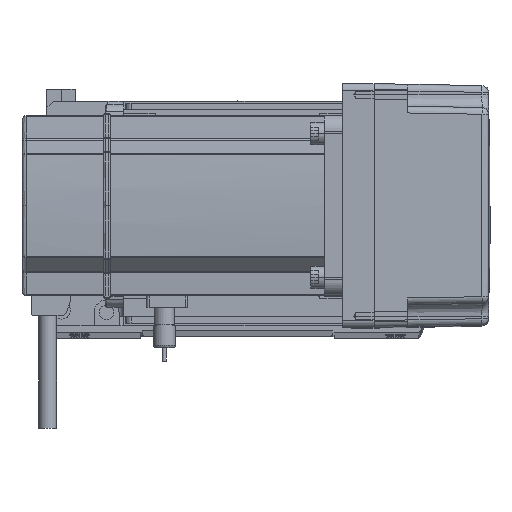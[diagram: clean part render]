
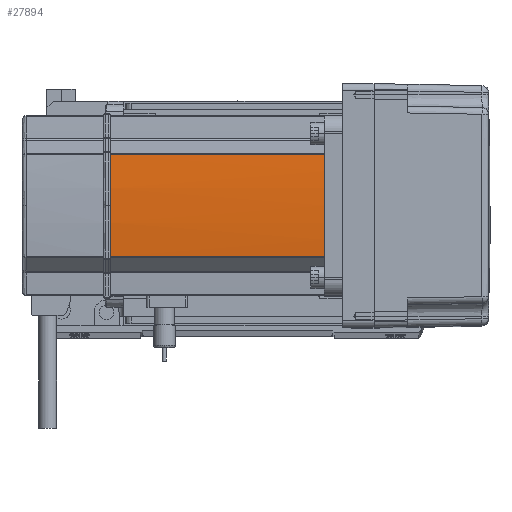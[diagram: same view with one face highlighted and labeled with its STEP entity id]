
A CAD part, top view. The second image highlights one B-rep face of the part: STEP entity #27894.
In plain terms, the highlighted cylindrical face has radius 270 mm (diameter 540 mm), a partial arc.
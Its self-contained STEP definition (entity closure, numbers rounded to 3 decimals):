
#1640 = DIRECTION ( 'NONE',  ( 1., 0., 0. ) ) ;
#1678 = DIRECTION ( 'NONE',  ( 1., 0., 0. ) ) ;
#2186 = CIRCLE ( 'NONE', #44142, 270. ) ;
#7544 = CYLINDRICAL_SURFACE ( 'NONE', #23290, 270. ) ;
#9021 = CARTESIAN_POINT ( 'NONE',  ( -39.042, -22.724, 39. ) ) ;
#10149 = EDGE_CURVE ( 'NONE', #40676, #30297, #2186, .T. ) ;
#10445 = ORIENTED_EDGE ( 'NONE', *, *, #30769, .T. ) ;
#11083 = DIRECTION ( 'NONE',  ( 0., 0., 1. ) ) ;
#12464 = ORIENTED_EDGE ( 'NONE', *, *, #49266, .T. ) ;
#12509 = LINE ( 'NONE', #24767, #57011 ) ;
#13153 = DIRECTION ( 'NONE',  ( 0., 0., -1. ) ) ;
#20511 = DIRECTION ( 'NONE',  ( 1., 0., 0. ) ) ;
#22298 = ORIENTED_EDGE ( 'NONE', *, *, #49532, .T. ) ;
#22642 = CARTESIAN_POINT ( 'NONE',  ( -40., 0., 134. ) ) ;
#23245 = CARTESIAN_POINT ( 'NONE',  ( -39.042, 22.724, 134. ) ) ;
#23290 = AXIS2_PLACEMENT_3D ( 'NONE', #47692, #11083, #20511 ) ;
#24417 = LINE ( 'NONE', #49272, #51037 ) ;
#24765 = FACE_OUTER_BOUND ( 'NONE', #34408, .T. ) ;
#24767 = CARTESIAN_POINT ( 'NONE',  ( -39.042, 22.724, 0. ) ) ;
#27894 = ADVANCED_FACE ( 'NONE', ( #24765 ), #7544, .T. ) ;
#29196 = CARTESIAN_POINT ( 'NONE',  ( 230., 0., 39. ) ) ;
#29222 = DIRECTION ( 'NONE',  ( 0., 0., -1. ) ) ;
#30297 = VERTEX_POINT ( 'NONE', #46888 ) ;
#30769 = EDGE_CURVE ( 'NONE', #40676, #45592, #24417, .T. ) ;
#31671 = DIRECTION ( 'NONE',  ( 1., 0., 0. ) ) ;
#32223 = CIRCLE ( 'NONE', #36498, 270. ) ;
#33493 = ORIENTED_EDGE ( 'NONE', *, *, #48144, .T. ) ;
#33632 = CARTESIAN_POINT ( 'NONE',  ( 230., 0., 134. ) ) ;
#33670 = CIRCLE ( 'NONE', #49954, 270. ) ;
#34408 = EDGE_LOOP ( 'NONE', ( #22298, #12464, #33493, #46705, #10445 ) ) ;
#34536 = VERTEX_POINT ( 'NONE', #23245 ) ;
#36498 = AXIS2_PLACEMENT_3D ( 'NONE', #33632, #29222, #1678 ) ;
#40676 = VERTEX_POINT ( 'NONE', #9021 ) ;
#42169 = VERTEX_POINT ( 'NONE', #22642 ) ;
#43324 = DIRECTION ( 'NONE',  ( 0., 0., -1. ) ) ;
#44142 = AXIS2_PLACEMENT_3D ( 'NONE', #29196, #47496, #1640 ) ;
#45592 = VERTEX_POINT ( 'NONE', #54852 ) ;
#46705 = ORIENTED_EDGE ( 'NONE', *, *, #10149, .F. ) ;
#46888 = CARTESIAN_POINT ( 'NONE',  ( -39.042, 22.724, 39. ) ) ;
#47496 = DIRECTION ( 'NONE',  ( 0., 0., -1. ) ) ;
#47692 = CARTESIAN_POINT ( 'NONE',  ( 230., 0., 0. ) ) ;
#48144 = EDGE_CURVE ( 'NONE', #34536, #30297, #12509, .T. ) ;
#48909 = DIRECTION ( 'NONE',  ( 0., 0., 1. ) ) ;
#49266 = EDGE_CURVE ( 'NONE', #42169, #34536, #33670, .T. ) ;
#49272 = CARTESIAN_POINT ( 'NONE',  ( -39.042, -22.724, 0. ) ) ;
#49532 = EDGE_CURVE ( 'NONE', #45592, #42169, #32223, .T. ) ;
#49954 = AXIS2_PLACEMENT_3D ( 'NONE', #59409, #13153, #31671 ) ;
#51037 = VECTOR ( 'NONE', #48909, 1000. ) ;
#54852 = CARTESIAN_POINT ( 'NONE',  ( -39.042, -22.724, 134. ) ) ;
#57011 = VECTOR ( 'NONE', #43324, 1000. ) ;
#59409 = CARTESIAN_POINT ( 'NONE',  ( 230., 0., 134. ) ) ;
